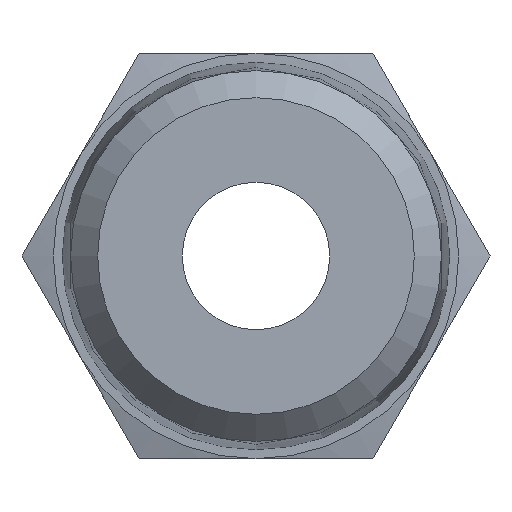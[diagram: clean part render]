
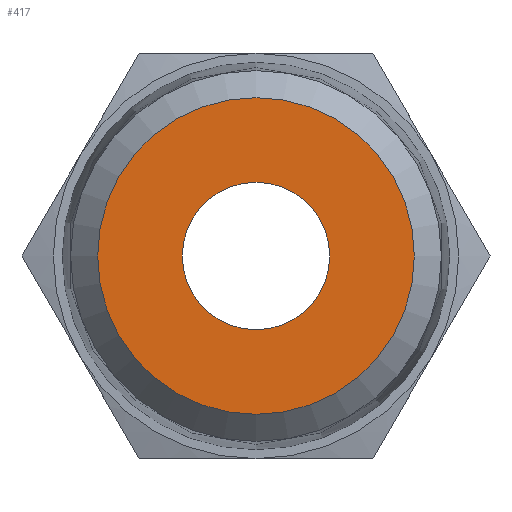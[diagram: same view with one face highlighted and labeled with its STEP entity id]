
A CAD part, left-side view. The second image highlights one B-rep face of the part: STEP entity #417.
In plain terms, the highlighted planar face has unit normal (-1, 0, 0).
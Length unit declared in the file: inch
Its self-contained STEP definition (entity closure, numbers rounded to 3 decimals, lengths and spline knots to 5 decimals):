
#37=PLANE('',#472);
#57=CIRCLE('',#473,0.26842);
#58=CIRCLE('',#474,0.125);
#102=ORIENTED_EDGE('',*,*,#212,.F.);
#103=ORIENTED_EDGE('',*,*,#213,.T.);
#212=EDGE_CURVE('',#259,#259,#57,.T.);
#213=EDGE_CURVE('',#260,#260,#58,.T.);
#259=VERTEX_POINT('',#756);
#260=VERTEX_POINT('',#758);
#308=EDGE_LOOP('',(#102));
#309=EDGE_LOOP('',(#103));
#354=FACE_BOUND('',#308,.T.);
#355=FACE_BOUND('',#309,.T.);
#417=ADVANCED_FACE('',(#354,#355),#37,.F.);
#472=AXIS2_PLACEMENT_3D('',#754,#551,#552);
#473=AXIS2_PLACEMENT_3D('',#755,#553,#554);
#474=AXIS2_PLACEMENT_3D('',#757,#555,#556);
#551=DIRECTION('',(1.,0.,0.));
#552=DIRECTION('',(0.,0.,-1.));
#553=DIRECTION('',(1.,0.,0.));
#554=DIRECTION('',(0.,0.,-1.));
#555=DIRECTION('',(1.,0.,0.));
#556=DIRECTION('',(0.,0.,-1.));
#754=CARTESIAN_POINT('',(0.,0.,0.));
#755=CARTESIAN_POINT('',(0.,0.,0.));
#756=CARTESIAN_POINT('',(0.,0.,-0.26842));
#757=CARTESIAN_POINT('',(0.,0.,0.));
#758=CARTESIAN_POINT('',(0.,0.,-0.125));
